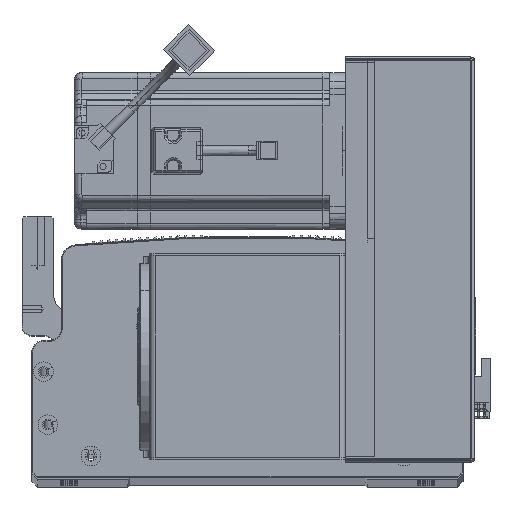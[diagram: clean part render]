
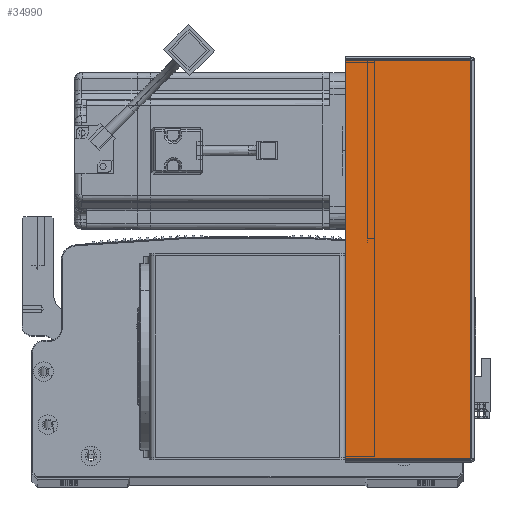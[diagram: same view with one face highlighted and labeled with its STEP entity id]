
A CAD part, top view. The second image highlights one B-rep face of the part: STEP entity #34990.
In plain terms, the highlighted planar face has unit normal (0, 0, 1) as drawn and (0, -1, 0) by its records, which use the part's own axes.
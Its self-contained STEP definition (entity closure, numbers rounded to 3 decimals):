
#1051 = CARTESIAN_POINT ( 'NONE',  ( 0.737, -1.5, 0. ) ) ;
#3607 = ORIENTED_EDGE ( 'NONE', *, *, #67844, .T. ) ;
#4514 = DIRECTION ( 'NONE',  ( -1., 0., 0. ) ) ;
#11645 = ORIENTED_EDGE ( 'NONE', *, *, #35772, .F. ) ;
#14221 = FACE_OUTER_BOUND ( 'NONE', #86537, .T. ) ;
#16206 = LINE ( 'NONE', #22486, #66256 ) ;
#16968 = DIRECTION ( 'NONE',  ( 1., 0., 0. ) ) ;
#17458 = EDGE_CURVE ( 'NONE', #40754, #80786, #16206, .T. ) ;
#17836 = CARTESIAN_POINT ( 'NONE',  ( 64.5, -1.5, -0.707 ) ) ;
#20873 = VECTOR ( 'NONE', #77639, 1000. ) ;
#21182 = AXIS2_PLACEMENT_3D ( 'NONE', #76198, #90766, #4514 ) ;
#21470 = ORIENTED_EDGE ( 'NONE', *, *, #17458, .F. ) ;
#22486 = CARTESIAN_POINT ( 'NONE',  ( 0., -1.5, -0.707 ) ) ;
#26294 = ORIENTED_EDGE ( 'NONE', *, *, #92579, .T. ) ;
#28164 = CARTESIAN_POINT ( 'NONE',  ( 64.5, -1.5, 0. ) ) ;
#34990 = ADVANCED_FACE ( 'NONE', ( #14221 ), #62600, .F. ) ;
#35546 = LINE ( 'NONE', #39226, #91110 ) ;
#35772 = EDGE_CURVE ( 'NONE', #84780, #40754, #39064, .T. ) ;
#36775 = CARTESIAN_POINT ( 'NONE',  ( 0.737, -1.5, -0.707 ) ) ;
#36781 = VECTOR ( 'NONE', #72773, 1000. ) ;
#39064 = LINE ( 'NONE', #1051, #36781 ) ;
#39226 = CARTESIAN_POINT ( 'NONE',  ( 0., -1.5, -203.293 ) ) ;
#40069 = VERTEX_POINT ( 'NONE', #80929 ) ;
#40207 = LINE ( 'NONE', #28164, #20873 ) ;
#40754 = VERTEX_POINT ( 'NONE', #36775 ) ;
#44057 = DIRECTION ( 'NONE',  ( 1., 0., 0. ) ) ;
#62600 = PLANE ( 'NONE',  #21182 ) ;
#66256 = VECTOR ( 'NONE', #44057, 1000. ) ;
#67844 = EDGE_CURVE ( 'NONE', #84780, #40069, #35546, .T. ) ;
#72773 = DIRECTION ( 'NONE',  ( 0., 0., 1. ) ) ;
#76198 = CARTESIAN_POINT ( 'NONE',  ( 0., -1.5, 0. ) ) ;
#77279 = CARTESIAN_POINT ( 'NONE',  ( 0.737, -1.5, -203.293 ) ) ;
#77639 = DIRECTION ( 'NONE',  ( 0., 0., 1. ) ) ;
#80786 = VERTEX_POINT ( 'NONE', #17836 ) ;
#80929 = CARTESIAN_POINT ( 'NONE',  ( 64.5, -1.5, -203.293 ) ) ;
#84780 = VERTEX_POINT ( 'NONE', #77279 ) ;
#86537 = EDGE_LOOP ( 'NONE', ( #11645, #3607, #26294, #21470 ) ) ;
#90766 = DIRECTION ( 'NONE',  ( 0., 1., 0. ) ) ;
#91110 = VECTOR ( 'NONE', #16968, 1000. ) ;
#92579 = EDGE_CURVE ( 'NONE', #40069, #80786, #40207, .T. ) ;
